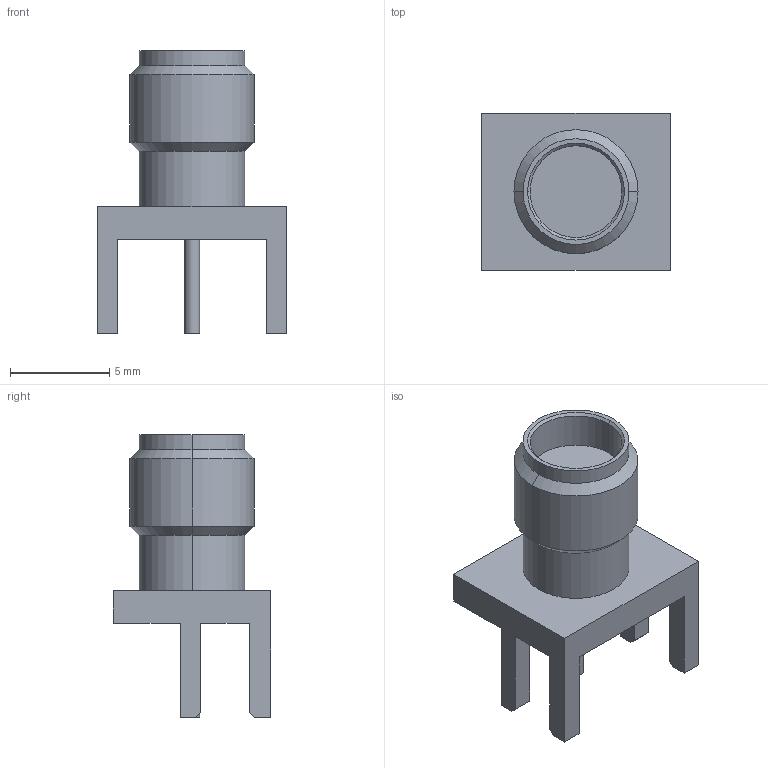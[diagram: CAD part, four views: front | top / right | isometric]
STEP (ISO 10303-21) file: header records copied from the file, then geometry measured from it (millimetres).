
FILE_DESCRIPTION (( 'STEP AP214' ), '1' );
FILE_NAME ('2985-6038.STEP', '2016-06-23T20:00:02', ( '' ), ( '' ), 'SwSTEP 2.0', 'SolidWorks 2015', '' );
FILE_SCHEMA (( 'AUTOMOTIVE_DESIGN' ));
Length unit declared in the file: inch
Products named in the file (2): 2985-6038
Bounding box: 9.53 x 7.92 x 14.27 mm (x, y, z)
Volume: 322.3 mm3; surface area: 474.4 mm2
Topology: 1 solids, 1 shells, 43 faces, 104 edges, 66 vertices
Faces by surface type: plane 27, cylinder 10, cone 6
Entity records: 1854 total; most frequent: DIRECTION 216, CARTESIAN_POINT 215, ORIENTED_EDGE 208, EDGE_CURVE 104, VECTOR 82, LINE 82, AXIS2_PLACEMENT_3D 67, VERTEX_POINT 66
